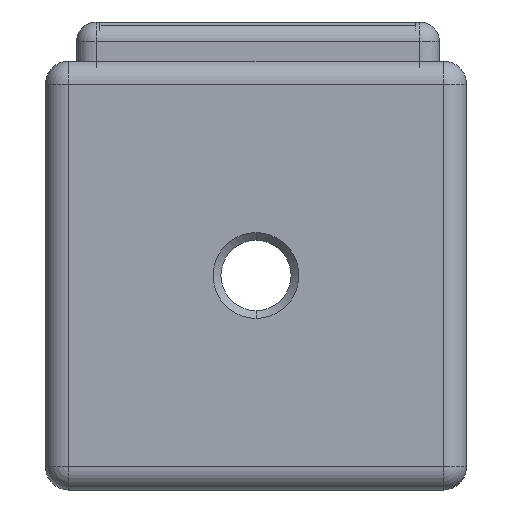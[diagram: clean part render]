
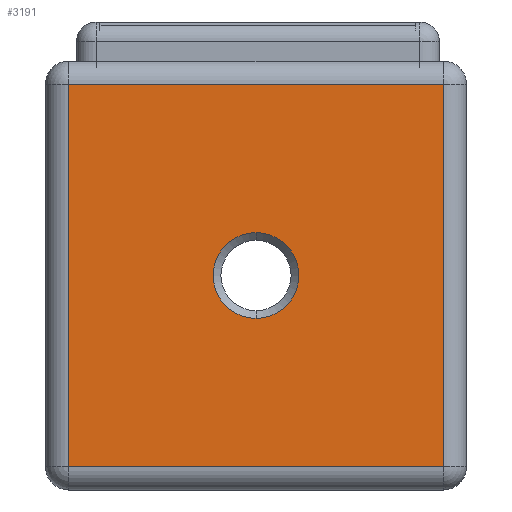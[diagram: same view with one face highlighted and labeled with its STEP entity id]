
A CAD part, front view. The second image highlights one B-rep face of the part: STEP entity #3191.
In plain terms, the highlighted planar face has unit normal (0, -1, 0).
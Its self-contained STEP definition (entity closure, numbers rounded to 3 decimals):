
#33 = VERTEX_POINT ( 'NONE', #923 ) ;
#48 = EDGE_CURVE ( 'NONE', #50, #33, #963, .T. ) ;
#50 = VERTEX_POINT ( 'NONE', #954 ) ;
#119 = EDGE_CURVE ( 'NONE', #3182, #3194, #1047, .T. ) ;
#120 = ORIENTED_EDGE ( 'NONE', *, *, #119, .T. ) ;
#923 = CARTESIAN_POINT ( 'NONE',  ( -103.452, -651.12, -46.557 ) ) ;
#954 = CARTESIAN_POINT ( 'NONE',  ( -103.452, -651.12, -68.557 ) ) ;
#959 = DIRECTION ( 'NONE',  ( 0., 0., -1. ) ) ;
#960 = DIRECTION ( 'NONE',  ( 0., 1., 0. ) ) ;
#961 = CARTESIAN_POINT ( 'NONE',  ( -103.452, -651.12, -57.557 ) ) ;
#962 = AXIS2_PLACEMENT_3D ( 'NONE', #961, #960, #959 ) ;
#963 = CIRCLE ( 'NONE', #962, 11. ) ;
#1044 = DIRECTION ( 'NONE',  ( 0., 0., -1. ) ) ;
#1045 = VECTOR ( 'NONE', #1044, 1000. ) ;
#1046 = CARTESIAN_POINT ( 'NONE',  ( -151.452, -651.12, -112.557 ) ) ;
#1047 = LINE ( 'NONE', #1046, #1045 ) ;
#2443 = PLANE ( 'NONE',  #2507 ) ;
#2444 = FACE_BOUND ( 'NONE', #3181, .T. ) ;
#2445 = FACE_OUTER_BOUND ( 'NONE', #3166, .T. ) ;
#2446 = DIRECTION ( 'NONE',  ( 0., 0., 1. ) ) ;
#2447 = VECTOR ( 'NONE', #2446, 1000. ) ;
#2448 = CARTESIAN_POINT ( 'NONE',  ( -55.452, -651.12, -112.557 ) ) ;
#2449 = LINE ( 'NONE', #2448, #2447 ) ;
#2450 = CARTESIAN_POINT ( 'NONE',  ( -55.452, -651.12, -8.557 ) ) ;
#2451 = DIRECTION ( 'NONE',  ( -1., 0., 0. ) ) ;
#2452 = VECTOR ( 'NONE', #2451, 1000. ) ;
#2453 = CARTESIAN_POINT ( 'NONE',  ( -157.452, -651.12, -8.557 ) ) ;
#2454 = LINE ( 'NONE', #2453, #2452 ) ;
#2455 = CARTESIAN_POINT ( 'NONE',  ( -151.452, -651.12, -8.557 ) ) ;
#2478 = CARTESIAN_POINT ( 'NONE',  ( -103.452, -651.12, -57.557 ) ) ;
#2498 = CARTESIAN_POINT ( 'NONE',  ( -151.452, -651.12, -106.557 ) ) ;
#2499 = DIRECTION ( 'NONE',  ( 1., 0., 0. ) ) ;
#2500 = VECTOR ( 'NONE', #2499, 1000. ) ;
#2501 = CARTESIAN_POINT ( 'NONE',  ( -49.452, -651.12, -106.557 ) ) ;
#2502 = LINE ( 'NONE', #2501, #2500 ) ;
#2503 = CARTESIAN_POINT ( 'NONE',  ( -55.452, -651.12, -106.557 ) ) ;
#2504 = DIRECTION ( 'NONE',  ( 0., 0., -1. ) ) ;
#2505 = DIRECTION ( 'NONE',  ( 0., -1., 0. ) ) ;
#2506 = CARTESIAN_POINT ( 'NONE',  ( -157.452, -651.12, -112.557 ) ) ;
#2507 = AXIS2_PLACEMENT_3D ( 'NONE', #2506, #2505, #2504 ) ;
#2533 = DIRECTION ( 'NONE',  ( 0., 0., -1. ) ) ;
#2534 = DIRECTION ( 'NONE',  ( 0., 1., 0. ) ) ;
#2535 = AXIS2_PLACEMENT_3D ( 'NONE', #2478, #2534, #2533 ) ;
#2536 = CIRCLE ( 'NONE', #2535, 11. ) ;
#3166 = EDGE_LOOP ( 'NONE', ( #3188, #3189, #3185, #120 ) ) ;
#3181 = EDGE_LOOP ( 'NONE', ( #3205, #3207 ) ) ;
#3182 = VERTEX_POINT ( 'NONE', #2455 ) ;
#3183 = EDGE_CURVE ( 'NONE', #3186, #3182, #2454, .T. ) ;
#3185 = ORIENTED_EDGE ( 'NONE', *, *, #3183, .T. ) ;
#3186 = VERTEX_POINT ( 'NONE', #2450 ) ;
#3188 = ORIENTED_EDGE ( 'NONE', *, *, #3193, .T. ) ;
#3189 = ORIENTED_EDGE ( 'NONE', *, *, #3190, .T. ) ;
#3190 = EDGE_CURVE ( 'NONE', #3192, #3186, #2449, .T. ) ;
#3191 = ADVANCED_FACE ( 'NONE', ( #2445, #2444 ), #2443, .T. ) ;
#3192 = VERTEX_POINT ( 'NONE', #2503 ) ;
#3193 = EDGE_CURVE ( 'NONE', #3194, #3192, #2502, .T. ) ;
#3194 = VERTEX_POINT ( 'NONE', #2498 ) ;
#3205 = ORIENTED_EDGE ( 'NONE', *, *, #48, .T. ) ;
#3206 = EDGE_CURVE ( 'NONE', #33, #50, #2536, .T. ) ;
#3207 = ORIENTED_EDGE ( 'NONE', *, *, #3206, .T. ) ;
